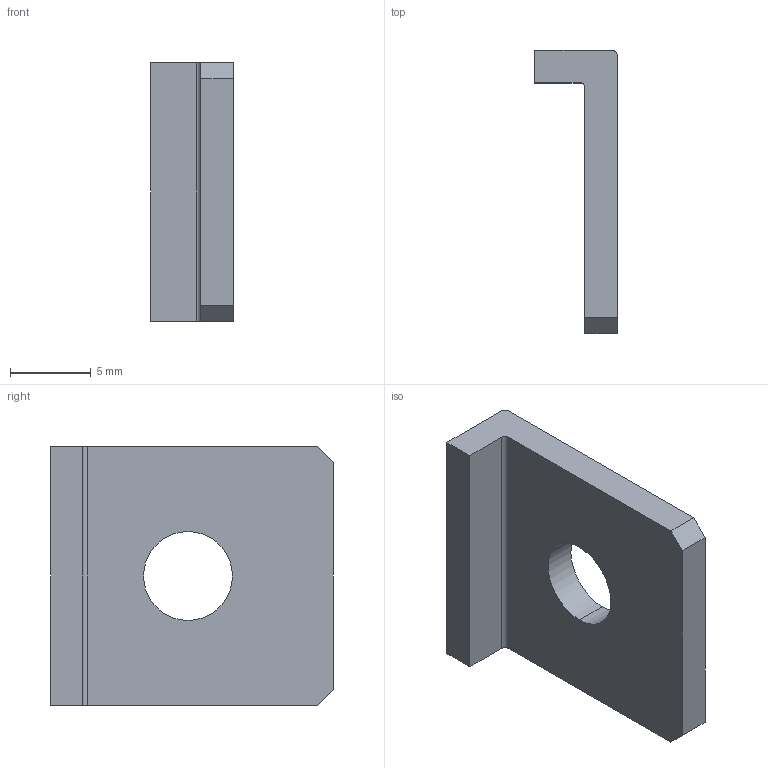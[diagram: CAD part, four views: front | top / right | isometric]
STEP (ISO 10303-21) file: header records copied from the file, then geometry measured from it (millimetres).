
FILE_DESCRIPTION (( 'STEP AP214' ), '1' );
FILE_NAME ('サーボマウントクランプ.STEP', '2024-06-18T02:30:41', ( '' ), ( '' ), 'SwSTEP 2.0', 'SolidWorks 2023', '' );
FILE_SCHEMA (( 'AUTOMOTIVE_DESIGN' ));
Length unit declared in the file: millimetre
Products named in the file (1): サーボマウントクランプ
Bounding box: 5.1 x 17.5 x 16 mm (x, y, z)
Volume: 609.7 mm3; surface area: 784.2 mm2
Topology: 1 solids, 1 shells, 14 faces, 36 edges, 24 vertices
Faces by surface type: plane 10, cylinder 4
Entity records: 455 total; most frequent: CARTESIAN_POINT 75, DIRECTION 74, ORIENTED_EDGE 72, EDGE_CURVE 36, VECTOR 28, LINE 28, VERTEX_POINT 24, AXIS2_PLACEMENT_3D 23
